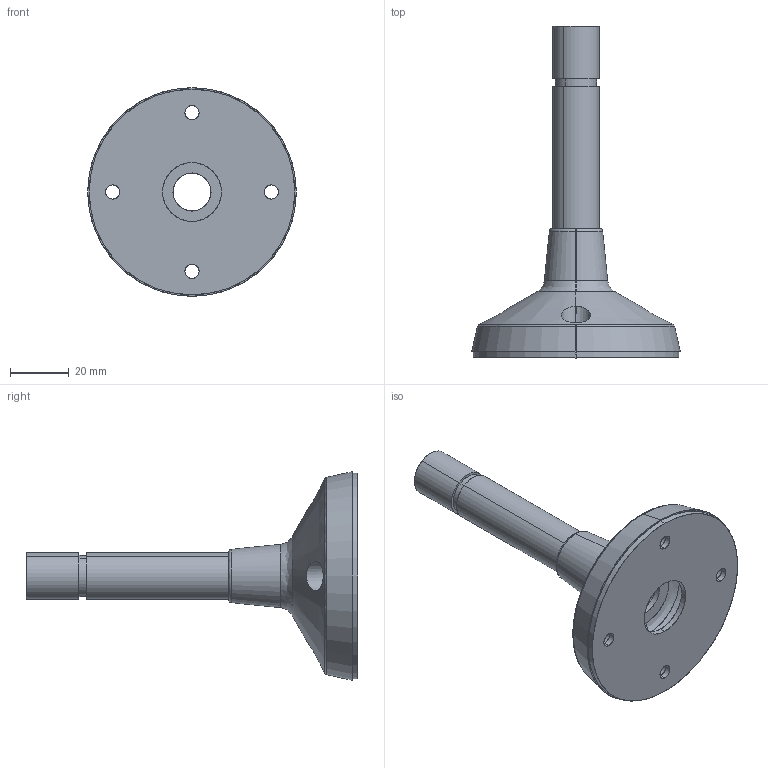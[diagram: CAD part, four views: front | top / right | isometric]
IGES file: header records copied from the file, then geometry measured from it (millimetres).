
Start section: SolidWorks IGES file using analytic representation for surfaces
Global section: file name: C:\Dokumente und Einstellungen\MMark\Desktop\28250150010- BR50-S100.IGS; native system: SolidWorks 2009; preprocessor: SolidWorks 2009; author: MMark; date: 100511.134358; units: millimetre
Bounding box: 71 x 113 x 71 mm (x, y, z)
Surface area: 30533.8 mm2 (no closed solid volume)
Topology: 0 solids, 0 shells, 78 faces, 1908 edges, 1908 vertices
Faces by surface type: revolution 56, bspline 22
